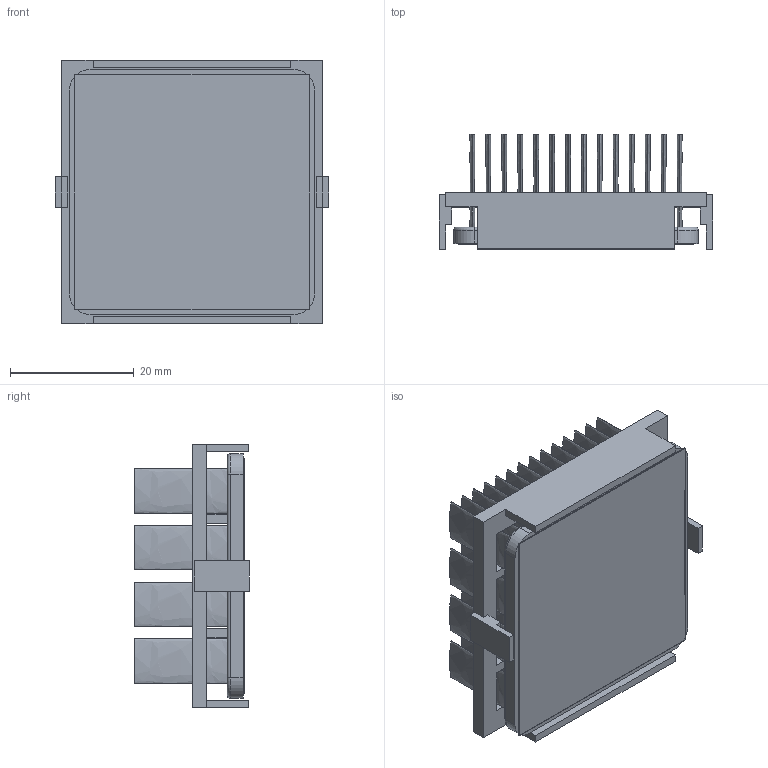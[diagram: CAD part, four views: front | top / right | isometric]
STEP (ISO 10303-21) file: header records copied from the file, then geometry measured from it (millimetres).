
FILE_DESCRIPTION (( 'STEP AP214' ), '1' );
FILE_NAME ('INM40001-18W-2.6O.STEP', '2023-02-21T17:39:18', ( '' ), ( '' ), 'SwSTEP 2.0', 'SolidWorks 2020', '' );
FILE_SCHEMA (( 'AUTOMOTIVE_DESIGN' ));
Length unit declared in the file: inch
Products named in the file (1): INM40001-18W-2.6O
Bounding box: 44.2 x 18.6 x 42.7 mm (x, y, z)
Volume: 10104.5 mm3; surface area: 21911.3 mm2
Topology: 3 solids, 3 shells, 250 faces, 556 edges, 368 vertices
Faces by surface type: plane 126, bspline 112, cylinder 8, torus 4
Entity records: 10428 total; most frequent: CARTESIAN_POINT 2631, ORIENTED_EDGE 1112, DIRECTION 630, EDGE_CURVE 556, VERTEX_POINT 368, LINE 312, VECTOR 312, EDGE_LOOP 308
